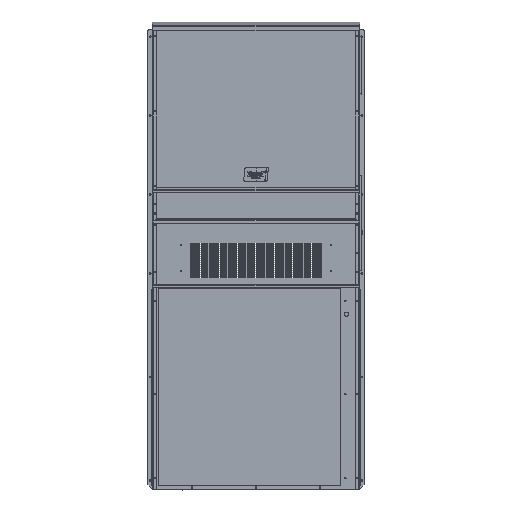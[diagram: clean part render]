
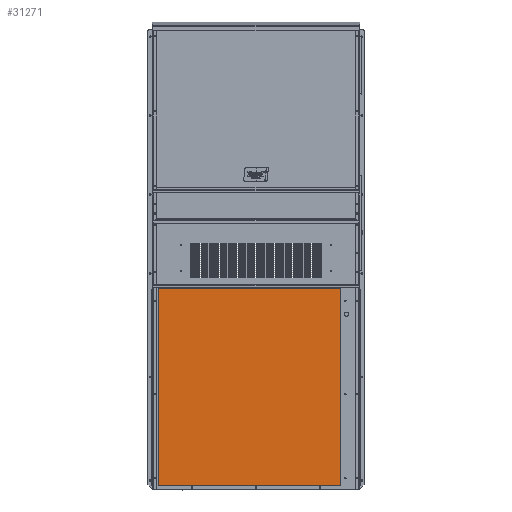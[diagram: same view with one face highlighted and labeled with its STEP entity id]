
A CAD part, top view. The second image highlights one B-rep face of the part: STEP entity #31271.
In plain terms, the highlighted planar face has unit normal (0, 0, 1).
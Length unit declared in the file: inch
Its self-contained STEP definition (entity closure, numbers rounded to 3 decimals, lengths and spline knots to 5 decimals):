
#557 = LINE ( 'NONE', #44261, #68249 ) ;
#829 = DIRECTION ( 'NONE',  ( 0., -1., 0. ) ) ;
#4978 = ORIENTED_EDGE ( 'NONE', *, *, #111387, .T. ) ;
#5087 = ORIENTED_EDGE ( 'NONE', *, *, #107754, .T. ) ;
#13267 = CARTESIAN_POINT ( 'NONE',  ( -3.69587, -0.06016, 0.10789 ) ) ;
#17766 = ORIENTED_EDGE ( 'NONE', *, *, #37328, .T. ) ;
#20120 = CARTESIAN_POINT ( 'NONE',  ( -3.69587, 40.08284, 0.10789 ) ) ;
#21359 = CARTESIAN_POINT ( 'NONE',  ( -40.76887, 40.08284, 0.10789 ) ) ;
#22753 = VECTOR ( 'NONE', #829, 39.37008 ) ;
#25204 = LINE ( 'NONE', #90400, #90058 ) ;
#29073 = DIRECTION ( 'NONE',  ( 1., 0., 0. ) ) ;
#31271 = ADVANCED_FACE ( 'NONE', ( #107852 ), #38787, .T. ) ;
#32723 = AXIS2_PLACEMENT_3D ( 'NONE', #21359, #100762, #48018 ) ;
#35254 = DIRECTION ( 'NONE',  ( -1., 0., 0. ) ) ;
#37328 = EDGE_CURVE ( 'NONE', #55891, #79319, #557, .T. ) ;
#38787 = PLANE ( 'NONE',  #32723 ) ;
#43352 = CARTESIAN_POINT ( 'NONE',  ( -40.76887, 40.08284, 0.10789 ) ) ;
#43526 = LINE ( 'NONE', #106494, #22753 ) ;
#44261 = CARTESIAN_POINT ( 'NONE',  ( -3.69587, 40.08284, 0.10789 ) ) ;
#48018 = DIRECTION ( 'NONE',  ( 0., -1., 0. ) ) ;
#52668 = VERTEX_POINT ( 'NONE', #43352 ) ;
#53855 = VERTEX_POINT ( 'NONE', #82320 ) ;
#54544 = ORIENTED_EDGE ( 'NONE', *, *, #73331, .T. ) ;
#55891 = VERTEX_POINT ( 'NONE', #13267 ) ;
#65320 = VECTOR ( 'NONE', #35254, 39.37008 ) ;
#68249 = VECTOR ( 'NONE', #105880, 39.37008 ) ;
#73331 = EDGE_CURVE ( 'NONE', #79319, #52668, #85944, .T. ) ;
#79319 = VERTEX_POINT ( 'NONE', #20120 ) ;
#82320 = CARTESIAN_POINT ( 'NONE',  ( -40.76887, -0.06016, 0.10789 ) ) ;
#85944 = LINE ( 'NONE', #88041, #65320 ) ;
#88041 = CARTESIAN_POINT ( 'NONE',  ( -40.76887, 40.08284, 0.10789 ) ) ;
#90058 = VECTOR ( 'NONE', #29073, 39.37008 ) ;
#90400 = CARTESIAN_POINT ( 'NONE',  ( -40.76887, -0.06016, 0.10789 ) ) ;
#90931 = EDGE_LOOP ( 'NONE', ( #4978, #5087, #17766, #54544 ) ) ;
#100762 = DIRECTION ( 'NONE',  ( 0., 0., 1. ) ) ;
#105880 = DIRECTION ( 'NONE',  ( 0., 1., 0. ) ) ;
#106494 = CARTESIAN_POINT ( 'NONE',  ( -40.76887, 40.08284, 0.10789 ) ) ;
#107754 = EDGE_CURVE ( 'NONE', #53855, #55891, #25204, .T. ) ;
#107852 = FACE_OUTER_BOUND ( 'NONE', #90931, .T. ) ;
#111387 = EDGE_CURVE ( 'NONE', #52668, #53855, #43526, .T. ) ;
